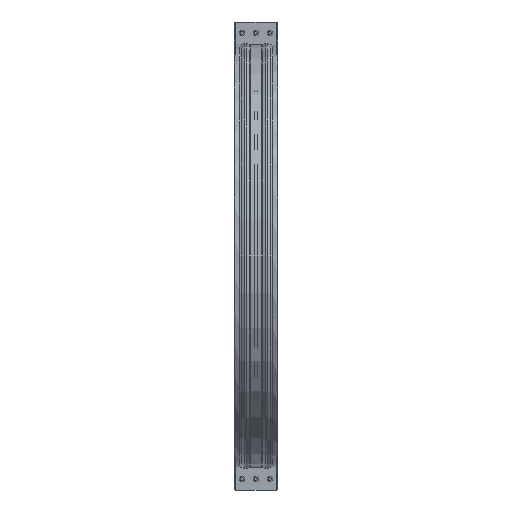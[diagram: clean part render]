
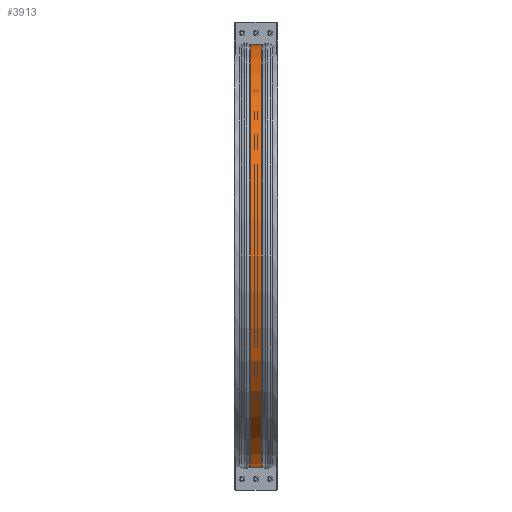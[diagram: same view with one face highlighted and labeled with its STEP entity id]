
A CAD part, front view. The second image highlights one B-rep face of the part: STEP entity #3913.
In plain terms, the highlighted cylindrical face has radius 1537 mm (diameter 3074 mm), a partial arc.
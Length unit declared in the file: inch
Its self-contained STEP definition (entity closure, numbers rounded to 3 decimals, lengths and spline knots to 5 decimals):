
#356=FACE_OUTER_BOUND('',#573,.T.);
#573=EDGE_LOOP('',(#2961,#2962,#2963,#2964));
#878=LINE('',#6057,#1251);
#886=LINE('',#6189,#1259);
#1251=VECTOR('',#4840,0.3937);
#1259=VECTOR('',#4900,0.3937);
#1495=CIRCLE('',#4189,60.51189);
#1497=CIRCLE('',#4193,60.51189);
#1752=VERTEX_POINT('',#6049);
#1753=VERTEX_POINT('',#6056);
#1768=VERTEX_POINT('',#6174);
#1770=VERTEX_POINT('',#6187);
#2187=EDGE_CURVE('',#1753,#1752,#878,.T.);
#2212=EDGE_CURVE('',#1768,#1753,#1495,.T.);
#2216=EDGE_CURVE('',#1770,#1752,#1497,.T.);
#2217=EDGE_CURVE('',#1770,#1768,#886,.T.);
#2961=ORIENTED_EDGE('',*,*,#2187,.T.);
#2962=ORIENTED_EDGE('',*,*,#2216,.F.);
#2963=ORIENTED_EDGE('',*,*,#2217,.T.);
#2964=ORIENTED_EDGE('',*,*,#2212,.T.);
#3592=CYLINDRICAL_SURFACE('',#4192,60.51189);
#3913=ADVANCED_FACE('',(#356),#3592,.T.);
#4189=AXIS2_PLACEMENT_3D('',#6175,#4889,#4890);
#4192=AXIS2_PLACEMENT_3D('',#6186,#4896,#4897);
#4193=AXIS2_PLACEMENT_3D('',#6188,#4898,#4899);
#4840=DIRECTION('',(1.,0.,0.));
#4889=DIRECTION('center_axis',(1.,0.,0.));
#4890=DIRECTION('ref_axis',(0.,0.,-1.));
#4896=DIRECTION('center_axis',(1.,0.,0.));
#4897=DIRECTION('ref_axis',(0.,-1.,0.));
#4898=DIRECTION('center_axis',(1.,0.,0.));
#4899=DIRECTION('ref_axis',(0.,0.,-1.));
#4900=DIRECTION('',(-1.,0.,0.));
#6049=CARTESIAN_POINT('',(1.60101,-0.475,-60.51002));
#6056=CARTESIAN_POINT('',(-1.60101,-0.475,-60.51002));
#6057=CARTESIAN_POINT('',(0.,-0.475,-60.51002));
#6174=CARTESIAN_POINT('',(-1.60101,-0.475,60.51002));
#6175=CARTESIAN_POINT('Origin',(-1.60101,0.,
0.));
#6186=CARTESIAN_POINT('Origin',(0.,0.,0.));
#6187=CARTESIAN_POINT('',(1.60101,-0.475,60.51002));
#6188=CARTESIAN_POINT('Origin',(1.60101,0.,0.));
#6189=CARTESIAN_POINT('',(0.,-0.475,60.51002));
